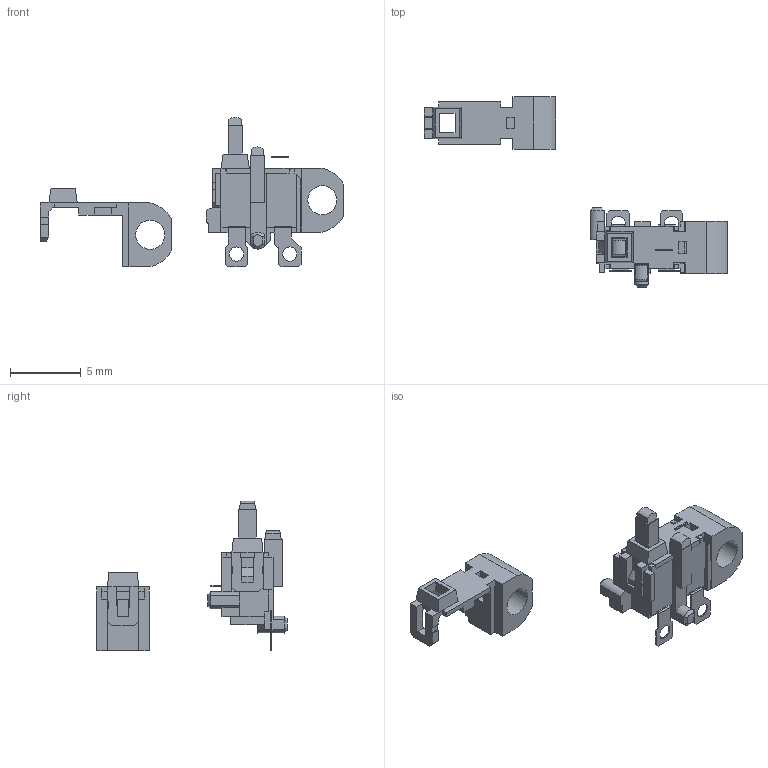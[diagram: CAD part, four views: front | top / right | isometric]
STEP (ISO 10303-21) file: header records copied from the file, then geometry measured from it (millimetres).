
FILE_DESCRIPTION( ( 'Unknown' ), '1' );
FILE_NAME( '//Ntcw022/Edgesv/fsw/ユーザ提出用データ/ﾃﾞｨﾃｸﾀｰｽｲｯﾁ/ESE11/ese11hs2-std-sk.stp', 'Unknown', ( 'Unknown' ), ( 'Unknown' ), 'PSStep 14.0', 'Unknown', ' ' );
FILE_SCHEMA( ( 'AUTOMOTIVE_DESIGN { 1 0 10303 214 1 1 1 1 }' ) );
Length unit declared in the file: millimetre
Products named in the file (8): Assem1; sw-3d-131-e11ts8-hs-sk-r00; sw-3d-131-e11cv9a-hs-sk-r00; sw-3d-131-e11lv9-hs-sk-r00; sw-3d-131-e11cs3-hs-pc-r00
Bounding box: 21.39 x 13.43 x 10.55 mm (x, y, z)
Volume: 266.7 mm3; surface area: 710.1 mm2
Topology: 14 solids, 14 shells, 464 faces, 1230 edges, 794 vertices
Faces by surface type: plane 432, cylinder 24, cone 8
Full cylindrical faces by diameter (mm): 1 x4, 2.05 x2
Entity records: 8985 total; most frequent: CARTESIAN_POINT 1271, ORIENTED_EDGE 1222, DIRECTION 1115, EDGE_CURVE 611, LINE 571, VECTOR 571, VERTEX_POINT 396, AXIS2_PLACEMENT_3D 272
